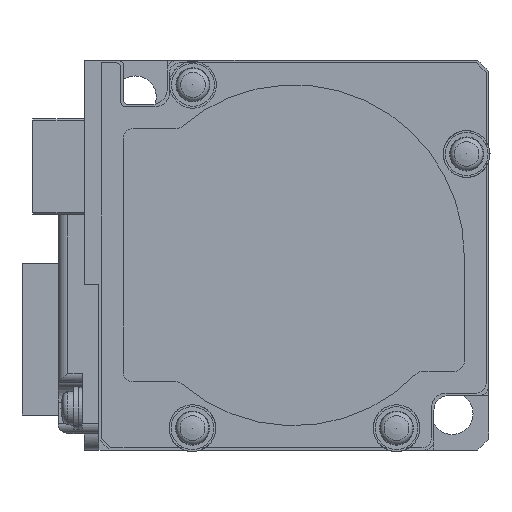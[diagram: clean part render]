
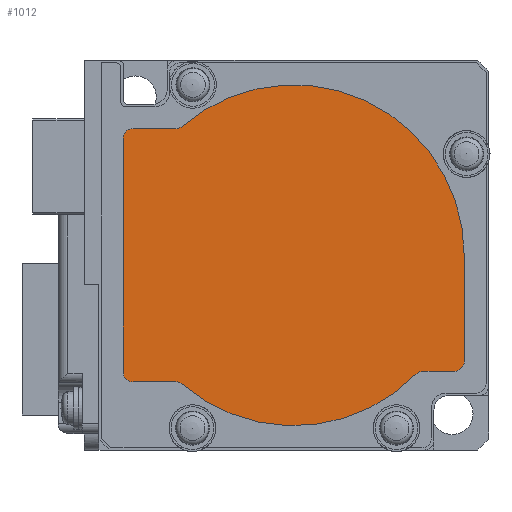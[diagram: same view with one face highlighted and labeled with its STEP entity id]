
A CAD part, left-side view. The second image highlights one B-rep face of the part: STEP entity #1012.
In plain terms, the highlighted planar face has unit normal (-1, 0, 0).
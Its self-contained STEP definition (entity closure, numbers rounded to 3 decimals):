
#1012 = ADVANCED_FACE( '', ( #2381 ), #2382, .F. );
#2381 = FACE_OUTER_BOUND( '', #4112, .T. );
#2382 = PLANE( '', #4113 );
#4112 = EDGE_LOOP( '', ( #7023, #7024, #7025, #7026, #7027, #7028, #7029, #7030, #7031, #7032, #7033, #7034, #7035 ) );
#4113 = AXIS2_PLACEMENT_3D( '', #7036, #7037, #7038 );
#7023 = ORIENTED_EDGE( '', *, *, #10608, .F. );
#7024 = ORIENTED_EDGE( '', *, *, #9975, .F. );
#7025 = ORIENTED_EDGE( '', *, *, #10609, .T. );
#7026 = ORIENTED_EDGE( '', *, *, #10500, .F. );
#7027 = ORIENTED_EDGE( '', *, *, #10610, .F. );
#7028 = ORIENTED_EDGE( '', *, *, #10611, .F. );
#7029 = ORIENTED_EDGE( '', *, *, #9880, .F. );
#7030 = ORIENTED_EDGE( '', *, *, #10612, .F. );
#7031 = ORIENTED_EDGE( '', *, *, #10613, .T. );
#7032 = ORIENTED_EDGE( '', *, *, #10614, .F. );
#7033 = ORIENTED_EDGE( '', *, *, #10615, .T. );
#7034 = ORIENTED_EDGE( '', *, *, #9741, .F. );
#7035 = ORIENTED_EDGE( '', *, *, #10616, .F. );
#7036 = CARTESIAN_POINT( '', ( -105.4, 0., 0. ) );
#7037 = DIRECTION( '', ( 1., 0., 0. ) );
#7038 = DIRECTION( '', ( 0., 0., -1. ) );
#9741 = EDGE_CURVE( '', #11612, #11613, #11614, .T. );
#9880 = EDGE_CURVE( '', #11848, #11849, #11850, .T. );
#9975 = EDGE_CURVE( '', #12010, #12011, #12012, .T. );
#10500 = EDGE_CURVE( '', #12826, #12827, #12828, .T. );
#10608 = EDGE_CURVE( '', #12011, #12974, #12975, .T. );
#10609 = EDGE_CURVE( '', #12010, #12827, #12976, .T. );
#10610 = EDGE_CURVE( '', #12977, #12826, #12978, .T. );
#10611 = EDGE_CURVE( '', #11849, #12977, #12979, .T. );
#10612 = EDGE_CURVE( '', #12980, #11848, #12981, .T. );
#10613 = EDGE_CURVE( '', #12980, #12982, #12983, .T. );
#10614 = EDGE_CURVE( '', #12984, #12982, #12985, .T. );
#10615 = EDGE_CURVE( '', #12984, #11613, #12986, .T. );
#10616 = EDGE_CURVE( '', #12974, #11612, #12987, .T. );
#11612 = VERTEX_POINT( '', #14259 );
#11613 = VERTEX_POINT( '', #14260 );
#11614 = LINE( '', #14261, #14262 );
#11848 = VERTEX_POINT( '', #14588 );
#11849 = VERTEX_POINT( '', #14589 );
#11850 = CIRCLE( '', #14590, 1. );
#12010 = VERTEX_POINT( '', #14820 );
#12011 = VERTEX_POINT( '', #14821 );
#12012 = CIRCLE( '', #14822, 17.5 );
#12826 = VERTEX_POINT( '', #15933 );
#12827 = VERTEX_POINT( '', #15934 );
#12828 = LINE( '', #15935, #15936 );
#12974 = VERTEX_POINT( '', #16139 );
#12975 = LINE( '', #16140, #16141 );
#12976 = CIRCLE( '', #16142, 1. );
#12977 = VERTEX_POINT( '', #16143 );
#12978 = CIRCLE( '', #16144, 1. );
#12979 = LINE( '', #16145, #16146 );
#12980 = VERTEX_POINT( '', #16147 );
#12981 = LINE( '', #16148, #16149 );
#12982 = VERTEX_POINT( '', #16150 );
#12983 = CIRCLE( '', #16151, 1. );
#12984 = VERTEX_POINT( '', #16152 );
#12985 = CIRCLE( '', #16153, 17.5 );
#12986 = CIRCLE( '', #16154, 1. );
#12987 = CIRCLE( '', #16155, 1. );
#14259 = CARTESIAN_POINT( '', ( -105.4, -16.5, -11.9 ) );
#14260 = CARTESIAN_POINT( '', ( -105.4, -13.26, -11.9 ) );
#14261 = CARTESIAN_POINT( '', ( -105.4, -16.5, -11.9 ) );
#14262 = VECTOR( '', #17546, 1000. );
#14588 = CARTESIAN_POINT( '', ( -105.4, 16.5, -13. ) );
#14589 = CARTESIAN_POINT( '', ( -105.4, 17.5, -12. ) );
#14590 = AXIS2_PLACEMENT_3D( '', #17690, #17691, #17692 );
#14820 = CARTESIAN_POINT( '', ( -105.4, 11.44, 13.243 ) );
#14821 = CARTESIAN_POINT( '', ( -105.4, -17.5, 0. ) );
#14822 = AXIS2_PLACEMENT_3D( '', #17775, #17776, #17777 );
#15933 = CARTESIAN_POINT( '', ( -105.4, 16.5, 13. ) );
#15934 = CARTESIAN_POINT( '', ( -105.4, 12.093, 13. ) );
#15935 = CARTESIAN_POINT( '', ( -105.4, 16.5, 13. ) );
#15936 = VECTOR( '', #18396, 1000. );
#16139 = CARTESIAN_POINT( '', ( -105.4, -17.5, -10.9 ) );
#16140 = CARTESIAN_POINT( '', ( -105.4, -17.5, 0. ) );
#16141 = VECTOR( '', #18493, 1000. );
#16142 = AXIS2_PLACEMENT_3D( '', #18494, #18495, #18496 );
#16143 = CARTESIAN_POINT( '', ( -105.4, 17.5, 12. ) );
#16144 = AXIS2_PLACEMENT_3D( '', #18497, #18498, #18499 );
#16145 = CARTESIAN_POINT( '', ( -105.4, 17.5, -12. ) );
#16146 = VECTOR( '', #18500, 1000. );
#16147 = CARTESIAN_POINT( '', ( -105.4, 12.093, -13. ) );
#16148 = CARTESIAN_POINT( '', ( -105.4, 12.093, -13. ) );
#16149 = VECTOR( '', #18501, 1000. );
#16150 = CARTESIAN_POINT( '', ( -105.4, 11.44, -13.243 ) );
#16151 = AXIS2_PLACEMENT_3D( '', #18502, #18503, #18504 );
#16152 = CARTESIAN_POINT( '', ( -105.4, -12.544, -12.203 ) );
#16153 = AXIS2_PLACEMENT_3D( '', #18505, #18506, #18507 );
#16154 = AXIS2_PLACEMENT_3D( '', #18508, #18509, #18510 );
#16155 = AXIS2_PLACEMENT_3D( '', #18511, #18512, #18513 );
#17546 = DIRECTION( '', ( 0., 1., 0. ) );
#17690 = CARTESIAN_POINT( '', ( -105.4, 16.5, -12. ) );
#17691 = DIRECTION( '', ( 1., 0., 0. ) );
#17692 = DIRECTION( '', ( 0., 0., -1. ) );
#17775 = CARTESIAN_POINT( '', ( -105.4, 0., 0. ) );
#17776 = DIRECTION( '', ( 1., 0., 0. ) );
#17777 = DIRECTION( '', ( 0., 0., -1. ) );
#18396 = DIRECTION( '', ( 0., -1., 0. ) );
#18493 = DIRECTION( '', ( 0., 0., -1. ) );
#18494 = CARTESIAN_POINT( '', ( -105.4, 12.093, 14. ) );
#18495 = DIRECTION( '', ( 1., 0., 0. ) );
#18496 = DIRECTION( '', ( 0., 0., -1. ) );
#18497 = CARTESIAN_POINT( '', ( -105.4, 16.5, 12. ) );
#18498 = DIRECTION( '', ( 1., 0., 0. ) );
#18499 = DIRECTION( '', ( 0., 0., -1. ) );
#18500 = DIRECTION( '', ( 0., 0., 1. ) );
#18501 = DIRECTION( '', ( 0., 1., 0. ) );
#18502 = CARTESIAN_POINT( '', ( -105.4, 12.093, -14. ) );
#18503 = DIRECTION( '', ( 1., 0., 0. ) );
#18504 = DIRECTION( '', ( 0., 0., -1. ) );
#18505 = CARTESIAN_POINT( '', ( -105.4, 0., 0. ) );
#18506 = DIRECTION( '', ( 1., 0., 0. ) );
#18507 = DIRECTION( '', ( 0., 0., -1. ) );
#18508 = CARTESIAN_POINT( '', ( -105.4, -13.26, -12.9 ) );
#18509 = DIRECTION( '', ( 1., 0., 0. ) );
#18510 = DIRECTION( '', ( 0., 0., -1. ) );
#18511 = CARTESIAN_POINT( '', ( -105.4, -16.5, -10.9 ) );
#18512 = DIRECTION( '', ( 1., 0., 0. ) );
#18513 = DIRECTION( '', ( 0., 0., -1. ) );
